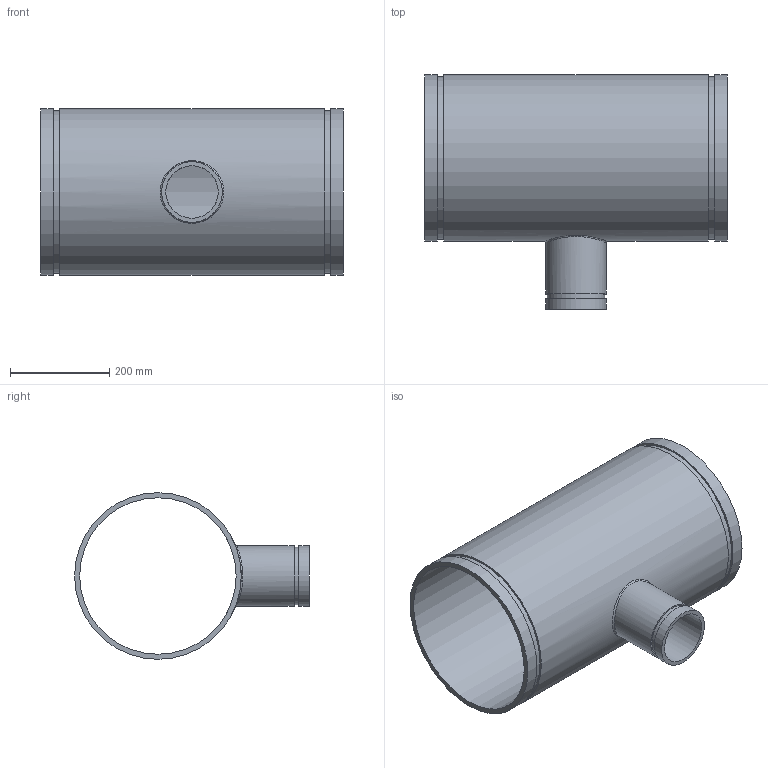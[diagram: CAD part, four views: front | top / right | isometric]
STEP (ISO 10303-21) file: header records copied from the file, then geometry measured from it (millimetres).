
FILE_DESCRIPTION(/* description */ ('VIC REDUCING TEE No 25-C','CAx-IF Rec.Pracs.---Representation and Presentation of Product Manufacturing Information (PMI)---4.0---2014-10-13'),/* implementation_level */ '2;1');
FILE_NAME(/* name */ 'C:\Users\Vjadhav\AppData\Roaming\Autodesk\ApplicationPlugins\Back Up\Victaulic_AWWA_Tee Reducing_No 25-C (DRG)\Victaulic_AWWA_Tee Reducing_No 25-C (DRG)_12.0x04.0 (300x100).stp',/* time_stamp */ '2020-08-18T18:17:56+06:00',/* author */ ('CORINNE GRAY'),/* organization */ ('Victaulic'),/* preprocessor_version */ 'ST-DEVELOPER v17.2',/* originating_system */ 'Autodesk Inventor 2019',/* authorisation */ '');
FILE_SCHEMA (('AP242_MANAGED_MODEL_BASED_3D_ENGINEERING_MIM_LF { 1 0 10303 442 1 1 4 }'));
Length unit declared in the file: inch
Products named in the file (1): 25C-12.0x04.0
Bounding box: 609.6 x 472.44 x 335.28 mm (x, y, z)
Volume: 6539873.2 mm3; surface area: 1369975.2 mm2
Topology: 1 solids, 1 shells, 20 faces, 44 edges, 33 vertices
Faces by surface type: cylinder 10, plane 9, bspline 1
Full cylindrical faces by diameter (mm): 105.664 x1, 115.9 x1, 121.92 x2, 314.96 x1, 327.812 x2, 335.28 x3
Entity records: 968 total; most frequent: CARTESIAN_POINT 344, DIRECTION 135, ORIENTED_EDGE 90, AXIS2_PLACEMENT_3D 62, EDGE_CURVE 45, VERTEX_POINT 34, EDGE_LOOP 31, CIRCLE 29
